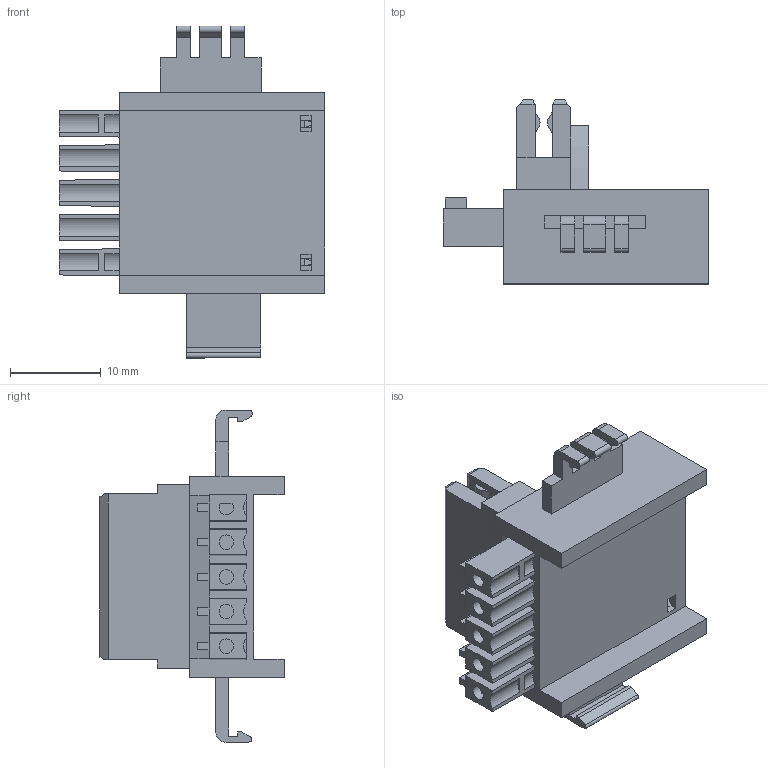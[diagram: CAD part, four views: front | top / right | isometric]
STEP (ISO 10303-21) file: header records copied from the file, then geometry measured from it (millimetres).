
FILE_DESCRIPTION (( 'STEP AP214' ), '1' );
FILE_NAME ('ACC-CON-TBUS.STEP', '2016-01-04T17:40:05', ( 'Daryl' ), ( 'Microsoft' ), 'SwSTEP 2.0', 'SolidWorks 2014', '' );
FILE_SCHEMA (( 'AUTOMOTIVE_DESIGN' ));
Length unit declared in the file: millimetre
Products named in the file (1): ACC-CON-TBUS
Bounding box: 29.2 x 20.25 x 36.5 mm (x, y, z)
Volume: 4701.9 mm3; surface area: 4468.7 mm2
Topology: 1 solids, 1 shells, 571 faces, 1509 edges, 992 vertices
Faces by surface type: plane 425, bspline 73, cylinder 68, cone 5
Full cylindrical faces by diameter (mm): 0.8 x1, 1.6 x8
Entity records: 24301 total; most frequent: CARTESIAN_POINT 6175, ORIENTED_EDGE 3000, DIRECTION 2483, EDGE_CURVE 1500, LINE 1203, VECTOR 1203, VERTEX_POINT 992, AXIS2_PLACEMENT_3D 640
